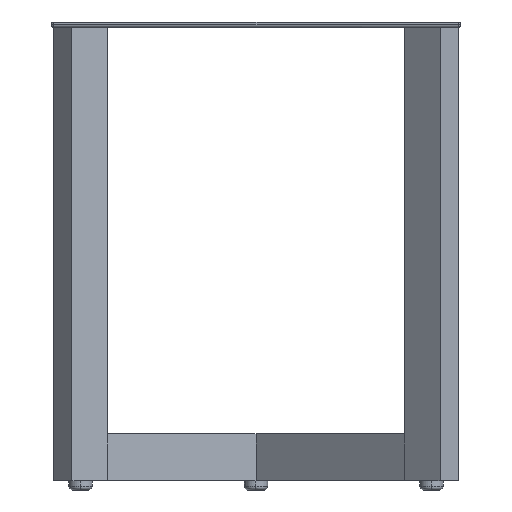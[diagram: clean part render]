
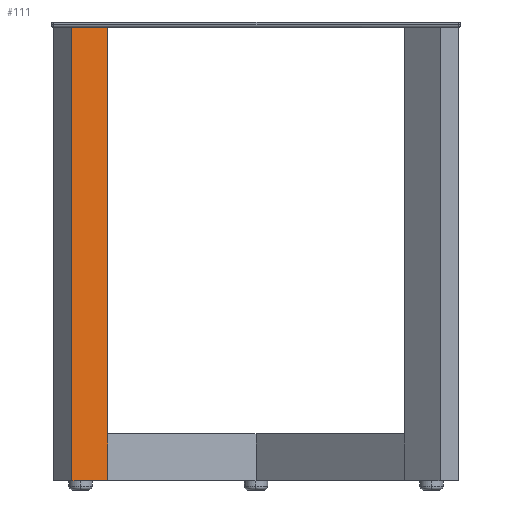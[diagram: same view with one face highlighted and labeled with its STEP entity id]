
A CAD part, left-side view. The second image highlights one B-rep face of the part: STEP entity #111.
In plain terms, the highlighted planar face has unit normal (-0.766, -0.643, 0).
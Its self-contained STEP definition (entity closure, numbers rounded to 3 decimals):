
#111=ADVANCED_FACE('',(#237),#1935,.T.);
#237=FACE_OUTER_BOUND('',#378,.T.);
#378=EDGE_LOOP('',(#756,#757,#758,#759,#760));
#756=ORIENTED_EDGE('',*,*,#1206,.T.);
#757=ORIENTED_EDGE('',*,*,#1207,.T.);
#758=ORIENTED_EDGE('',*,*,#1244,.T.);
#759=ORIENTED_EDGE('',*,*,#1208,.F.);
#760=ORIENTED_EDGE('',*,*,#1209,.F.);
#1206=EDGE_CURVE('',#1746,#1747,#1588,.T.);
#1207=EDGE_CURVE('',#1747,#1768,#1589,.T.);
#1208=EDGE_CURVE('',#1749,#1748,#1590,.T.);
#1209=EDGE_CURVE('',#1746,#1749,#1591,.T.);
#1244=EDGE_CURVE('',#1768,#1748,#1626,.T.);
#1588=B_SPLINE_CURVE_WITH_KNOTS('',1,(#3554,#3555),.UNSPECIFIED.,.F.,.F.,
(2,2),(0.,40.),.UNSPECIFIED.);
#1589=B_SPLINE_CURVE_WITH_KNOTS('',1,(#3556,#3557),.UNSPECIFIED.,.F.,.F.,
(2,2),(0.,41.29),.UNSPECIFIED.);
#1590=B_SPLINE_CURVE_WITH_KNOTS('',1,(#3558,#3559),.UNSPECIFIED.,.F.,.F.,
(2,2),(0.,40.),.UNSPECIFIED.);
#1591=B_SPLINE_CURVE_WITH_KNOTS('',1,(#3560,#3561),.UNSPECIFIED.,.F.,.F.,
(2,2),(0.,400.),.UNSPECIFIED.);
#1626=B_SPLINE_CURVE_WITH_KNOTS('',1,(#3630,#3631),.UNSPECIFIED.,.F.,.F.,
(2,2),(41.29,400.),.UNSPECIFIED.);
#1746=VERTEX_POINT('',#3464);
#1747=VERTEX_POINT('',#3465);
#1748=VERTEX_POINT('',#3466);
#1749=VERTEX_POINT('',#3467);
#1768=VERTEX_POINT('',#3486);
#1935=PLANE('',#2009);
#2009=AXIS2_PLACEMENT_3D('',#3049,#2066,$);
#2066=DIRECTION('',(-0.766,-0.643,0.));
#3049=CARTESIAN_POINT('',(-214.614,157.286,8.));
#3464=CARTESIAN_POINT('',(-214.614,157.286,8.));
#3465=CARTESIAN_POINT('',(-188.902,126.644,8.));
#3466=CARTESIAN_POINT('',(-188.902,126.644,395.5));
#3467=CARTESIAN_POINT('',(-214.614,157.286,395.5));
#3486=CARTESIAN_POINT('',(-188.902,126.644,48.));
#3554=CARTESIAN_POINT('',(-214.614,157.286,8.));
#3555=CARTESIAN_POINT('',(-188.902,126.644,8.));
#3556=CARTESIAN_POINT('',(-188.902,126.644,8.));
#3557=CARTESIAN_POINT('',(-188.902,126.644,48.));
#3558=CARTESIAN_POINT('',(-214.614,157.286,395.5));
#3559=CARTESIAN_POINT('',(-188.902,126.644,395.5));
#3560=CARTESIAN_POINT('',(-214.614,157.286,8.));
#3561=CARTESIAN_POINT('',(-214.614,157.286,395.5));
#3630=CARTESIAN_POINT('',(-188.902,126.644,48.));
#3631=CARTESIAN_POINT('',(-188.902,126.644,395.5));
